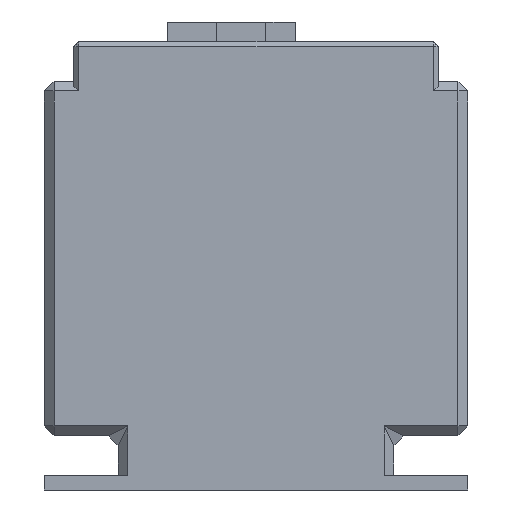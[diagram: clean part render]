
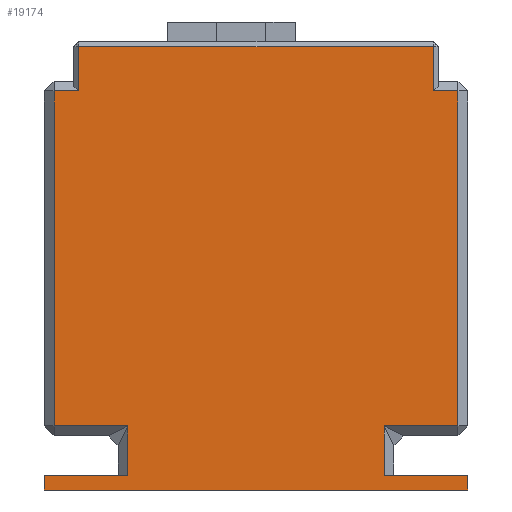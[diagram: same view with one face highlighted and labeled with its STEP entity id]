
A CAD part, left-side view. The second image highlights one B-rep face of the part: STEP entity #19174.
In plain terms, the highlighted planar face has unit normal (-1, 0, 0).
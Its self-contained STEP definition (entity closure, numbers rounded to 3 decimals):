
#1988=FACE_OUTER_BOUND('',#3125,.T.);
#3125=EDGE_LOOP('',(#15716,#15717,#15718,#15719,#15720,#15721,#15722,#15723,
#15724,#15725,#15726,#15727,#15728,#15729,#15730,#15731));
#4847=LINE('',#32099,#6766);
#4849=LINE('',#32102,#6768);
#4853=LINE('',#32112,#6772);
#4883=LINE('',#32175,#6802);
#4885=LINE('',#32178,#6804);
#4891=LINE('',#32187,#6810);
#4900=LINE('',#32203,#6819);
#4935=LINE('',#32276,#6854);
#4938=LINE('',#32281,#6857);
#4942=LINE('',#32287,#6861);
#4946=LINE('',#32295,#6865);
#4950=LINE('',#32303,#6869);
#4951=LINE('',#32305,#6870);
#4952=LINE('',#32307,#6871);
#4953=LINE('',#32309,#6872);
#4954=LINE('',#32310,#6873);
#6766=VECTOR('',#22918,10.);
#6768=VECTOR('',#22922,10.);
#6772=VECTOR('',#22932,10.);
#6802=VECTOR('',#22984,10.);
#6804=VECTOR('',#22988,10.);
#6810=VECTOR('',#23000,10.);
#6819=VECTOR('',#23015,10.);
#6854=VECTOR('',#23080,10.);
#6857=VECTOR('',#23087,10.);
#6861=VECTOR('',#23093,10.);
#6865=VECTOR('',#23101,10.);
#6869=VECTOR('',#23109,10.);
#6870=VECTOR('',#23110,10.);
#6871=VECTOR('',#23111,10.);
#6872=VECTOR('',#23112,10.);
#6873=VECTOR('',#23113,10.);
#8584=VERTEX_POINT('',#32083);
#8586=VERTEX_POINT('',#32092);
#8588=VERTEX_POINT('',#32097);
#8590=VERTEX_POINT('',#32108);
#8597=VERTEX_POINT('',#32125);
#8603=VERTEX_POINT('',#32139);
#8608=VERTEX_POINT('',#32151);
#8616=VERTEX_POINT('',#32199);
#8632=VERTEX_POINT('',#32251);
#8636=VERTEX_POINT('',#32259);
#8638=VERTEX_POINT('',#32268);
#8643=VERTEX_POINT('',#32293);
#8645=VERTEX_POINT('',#32302);
#8646=VERTEX_POINT('',#32304);
#8647=VERTEX_POINT('',#32306);
#8648=VERTEX_POINT('',#32308);
#11018=EDGE_CURVE('',#8588,#8586,#4847,.T.);
#11020=EDGE_CURVE('',#8586,#8584,#4849,.T.);
#11025=EDGE_CURVE('',#8584,#8590,#4853,.T.);
#11055=EDGE_CURVE('',#8590,#8608,#4883,.T.);
#11057=EDGE_CURVE('',#8608,#8603,#4885,.T.);
#11063=EDGE_CURVE('',#8603,#8597,#4891,.T.);
#11072=EDGE_CURVE('',#8597,#8616,#4900,.T.);
#11107=EDGE_CURVE('',#8638,#8636,#4935,.T.);
#11110=EDGE_CURVE('',#8632,#8638,#4938,.T.);
#11114=EDGE_CURVE('',#8636,#8588,#4942,.T.);
#11118=EDGE_CURVE('',#8643,#8632,#4946,.T.);
#11122=EDGE_CURVE('',#8643,#8645,#4950,.T.);
#11123=EDGE_CURVE('',#8646,#8645,#4951,.T.);
#11124=EDGE_CURVE('',#8646,#8647,#4952,.T.);
#11125=EDGE_CURVE('',#8647,#8648,#4953,.T.);
#11126=EDGE_CURVE('',#8648,#8616,#4954,.T.);
#15716=ORIENTED_EDGE('',*,*,#11114,.F.);
#15717=ORIENTED_EDGE('',*,*,#11107,.F.);
#15718=ORIENTED_EDGE('',*,*,#11110,.F.);
#15719=ORIENTED_EDGE('',*,*,#11118,.F.);
#15720=ORIENTED_EDGE('',*,*,#11122,.T.);
#15721=ORIENTED_EDGE('',*,*,#11123,.F.);
#15722=ORIENTED_EDGE('',*,*,#11124,.T.);
#15723=ORIENTED_EDGE('',*,*,#11125,.T.);
#15724=ORIENTED_EDGE('',*,*,#11126,.T.);
#15725=ORIENTED_EDGE('',*,*,#11072,.F.);
#15726=ORIENTED_EDGE('',*,*,#11063,.F.);
#15727=ORIENTED_EDGE('',*,*,#11057,.F.);
#15728=ORIENTED_EDGE('',*,*,#11055,.F.);
#15729=ORIENTED_EDGE('',*,*,#11025,.F.);
#15730=ORIENTED_EDGE('',*,*,#11020,.F.);
#15731=ORIENTED_EDGE('',*,*,#11018,.F.);
#18094=PLANE('',#20086);
#19174=ADVANCED_FACE('',(#1988),#18094,.T.);
#20086=AXIS2_PLACEMENT_3D('',#32301,#23107,#23108);
#22918=DIRECTION('',(0.,0.,1.));
#22922=DIRECTION('',(0.,-1.,0.));
#22932=DIRECTION('',(0.,0.,-1.));
#22984=DIRECTION('',(0.,-1.,0.));
#22988=DIRECTION('',(0.,0.,-1.));
#23000=DIRECTION('',(0.,1.,0.));
#23015=DIRECTION('',(0.,0.,-1.));
#23080=DIRECTION('',(0.,0.,1.));
#23087=DIRECTION('',(0.,1.,0.));
#23093=DIRECTION('',(0.,-1.,0.));
#23101=DIRECTION('',(0.,0.,1.));
#23107=DIRECTION('center_axis',(-1.,0.,0.));
#23108=DIRECTION('ref_axis',(0.,-1.,0.));
#23109=DIRECTION('',(0.,1.,0.));
#23110=DIRECTION('',(0.,0.,1.));
#23111=DIRECTION('',(0.,-1.,0.));
#23112=DIRECTION('',(0.,0.,1.));
#23113=DIRECTION('',(0.,1.,0.));
#32083=CARTESIAN_POINT('',(0.,7.,90.));
#32092=CARTESIAN_POINT('',(0.,79.,90.));
#32097=CARTESIAN_POINT('',(0.,79.,81.));
#32099=CARTESIAN_POINT('',(0.,79.,47.5));
#32102=CARTESIAN_POINT('',(0.,64.5,90.));
#32108=CARTESIAN_POINT('',(0.,7.,81.));
#32112=CARTESIAN_POINT('',(0.,7.,47.5));
#32125=CARTESIAN_POINT('',(0.,17.,13.));
#32139=CARTESIAN_POINT('',(0.,2.,13.));
#32151=CARTESIAN_POINT('',(0.,2.,81.));
#32175=CARTESIAN_POINT('',(0.,44.756,81.));
#32178=CARTESIAN_POINT('',(0.,2.,0.));
#32187=CARTESIAN_POINT('',(0.,43.,13.));
#32199=CARTESIAN_POINT('',(0.,17.,3.));
#32203=CARTESIAN_POINT('',(0.,17.,3.5));
#32251=CARTESIAN_POINT('',(0.,69.,13.));
#32259=CARTESIAN_POINT('',(0.,84.,81.));
#32268=CARTESIAN_POINT('',(0.,84.,13.));
#32276=CARTESIAN_POINT('',(0.,84.,0.));
#32281=CARTESIAN_POINT('',(0.,86.,13.));
#32287=CARTESIAN_POINT('',(0.,84.244,81.));
#32293=CARTESIAN_POINT('',(0.,69.,3.));
#32295=CARTESIAN_POINT('',(0.,69.,3.5));
#32301=CARTESIAN_POINT('Origin',(0.,86.,0.));
#32302=CARTESIAN_POINT('',(0.,86.,3.));
#32303=CARTESIAN_POINT('',(0.,86.,3.));
#32304=CARTESIAN_POINT('',(0.,86.,0.));
#32305=CARTESIAN_POINT('',(0.,86.,0.));
#32306=CARTESIAN_POINT('',(0.,0.,0.));
#32307=CARTESIAN_POINT('',(0.,86.,0.));
#32308=CARTESIAN_POINT('',(0.,0.,3.));
#32309=CARTESIAN_POINT('',(0.,0.,0.));
#32310=CARTESIAN_POINT('',(0.,43.,3.));
